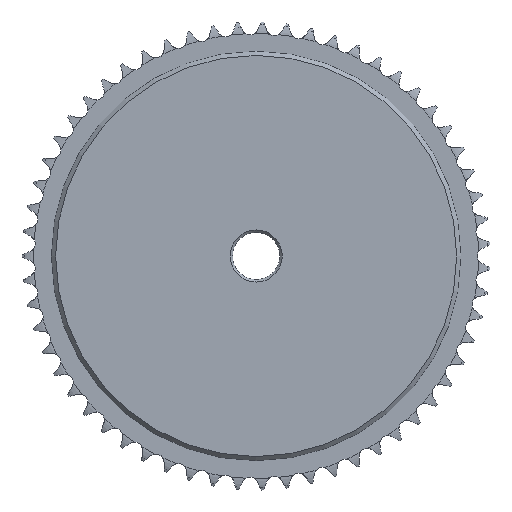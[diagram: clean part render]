
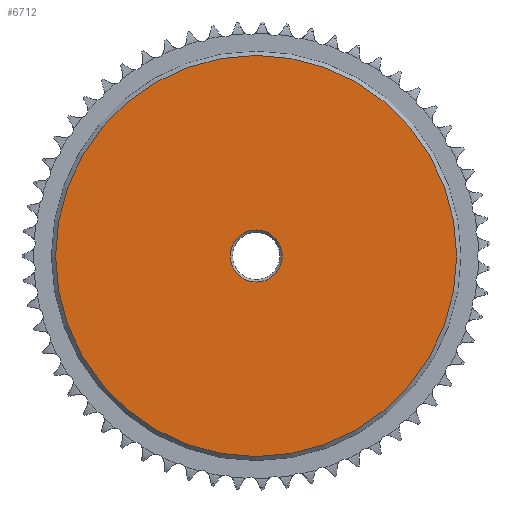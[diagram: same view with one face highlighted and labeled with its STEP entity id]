
A CAD part, left-side view. The second image highlights one B-rep face of the part: STEP entity #6712.
In plain terms, the highlighted planar face has unit normal (-1, 0, 0).
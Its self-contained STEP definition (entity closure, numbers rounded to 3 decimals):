
#143=FACE_BOUND('',#878,.T.);
#148=PLANE('',#7436);
#508=FACE_OUTER_BOUND('',#877,.T.);
#877=EDGE_LOOP('',(#5984));
#878=EDGE_LOOP('',(#5985));
#1243=CIRCLE('',#7435,5.35);
#1244=CIRCLE('',#7437,41.15);
#2905=VERTEX_POINT('',#13683);
#2906=VERTEX_POINT('',#13686);
#3973=EDGE_CURVE('',#2905,#2905,#1243,.T.);
#3974=EDGE_CURVE('',#2906,#2906,#1244,.T.);
#5984=ORIENTED_EDGE('',*,*,#3974,.F.);
#5985=ORIENTED_EDGE('',*,*,#3973,.T.);
#6712=ADVANCED_FACE('',(#508,#143),#148,.T.);
#7435=AXIS2_PLACEMENT_3D('',#13684,#9114,#9115);
#7436=AXIS2_PLACEMENT_3D('',#13685,#9116,#9117);
#7437=AXIS2_PLACEMENT_3D('',#13687,#9118,#9119);
#9114=DIRECTION('center_axis',(1.,0.,0.));
#9115=DIRECTION('ref_axis',(0.,0.,-1.));
#9116=DIRECTION('center_axis',(-1.,0.,0.));
#9117=DIRECTION('ref_axis',(0.,0.,1.));
#9118=DIRECTION('center_axis',(1.,0.,0.));
#9119=DIRECTION('ref_axis',(0.,0.,-1.));
#13683=CARTESIAN_POINT('',(-2.1,6.853,0.));
#13684=CARTESIAN_POINT('Origin',(-2.1,1.503,0.));
#13685=CARTESIAN_POINT('Origin',(-2.1,42.653,0.));
#13686=CARTESIAN_POINT('',(-2.1,42.653,0.));
#13687=CARTESIAN_POINT('Origin',(-2.1,1.503,0.));
